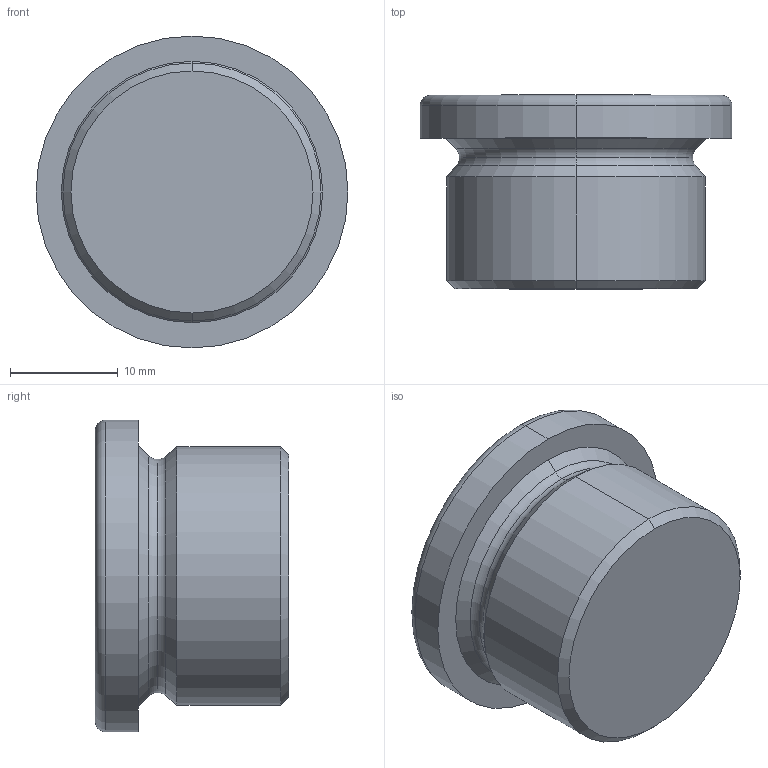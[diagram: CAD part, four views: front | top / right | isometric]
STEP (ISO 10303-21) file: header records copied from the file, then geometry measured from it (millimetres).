
FILE_DESCRIPTION (( 'STEP AP214' ), '1' );
FILE_NAME ('908-A4-M24x1,5-A.step', '2024-12-19T09:18:24', ( '' ), ( '' ), 'SwSTEP 2.0', 'SolidWorks 2022', '' );
FILE_SCHEMA (( 'AUTOMOTIVE_DESIGN' ));
Length unit declared in the file: millimetre
Products named in the file (1): 908-A4-M24x1,5-A
Bounding box: 29 x 18 x 29 mm (x, y, z)
Volume: 7822 mm3; surface area: 3015.7 mm2
Topology: 1 solids, 1 shells, 26 faces, 54 edges, 32 vertices
Faces by surface type: plane 10, torus 6, cone 6, cylinder 4
Entity records: 744 total; most frequent: DIRECTION 134, CARTESIAN_POINT 113, ORIENTED_EDGE 108, EDGE_CURVE 54, AXIS2_PLACEMENT_3D 53, VERTEX_POINT 32, LINE 28, EDGE_LOOP 28
